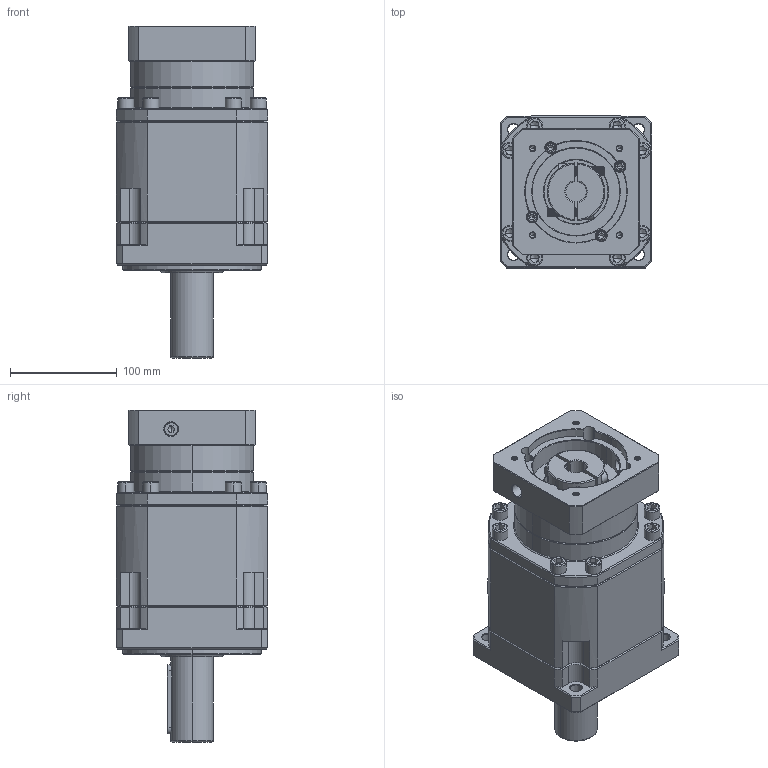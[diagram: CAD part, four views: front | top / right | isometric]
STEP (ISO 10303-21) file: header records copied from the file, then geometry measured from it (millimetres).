
FILE_DESCRIPTION (( 'STEP AP214' ), '1' );
FILE_NAME ('ZB142A-D40-L3-P2-19-95-115-M6.step', '2023-09-02T02:51:16', ( '' ), ( '' ), 'SwSTEP 2.0', 'SolidWorks 2016', '' );
FILE_SCHEMA (( 'AUTOMOTIVE_DESIGN' ));
Length unit declared in the file: millimetre
Products named in the file (1): ZB142A-D40-L3-P2-19-95-115-M6
Bounding box: 142 x 142 x 310.7 mm (x, y, z)
Volume: 3613236 mm3; surface area: 251224.2 mm2
Topology: 6 solids, 6 shells, 2559 faces, 6710 edges, 4273 vertices
Faces by surface type: plane 1205, cylinder 489, bspline 425, cone 402, torus 38
Entity records: 135690 total; most frequent: CARTESIAN_POINT 47850, ORIENTED_EDGE 13312, DIRECTION 10907, EDGE_CURVE 6656, VERTEX_POINT 4273, VECTOR 4215, LINE 4215, AXIS2_PLACEMENT_3D 3346
